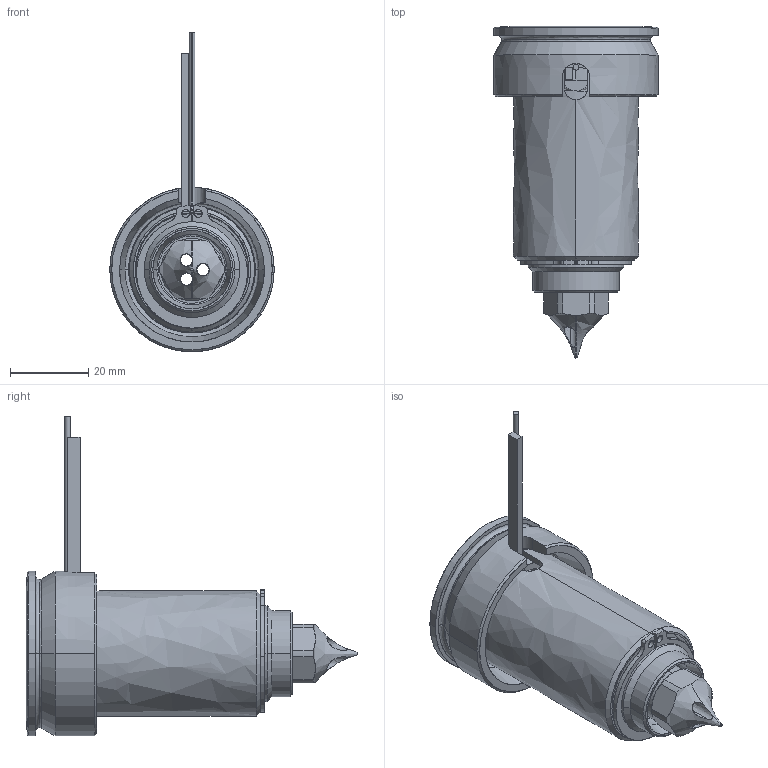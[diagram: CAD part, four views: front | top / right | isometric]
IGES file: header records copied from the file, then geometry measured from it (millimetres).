
Start section: SolidWorks IGES file using analytic representation for surfaces
Global section: file name: C:\Users\luca.EMPAD\Desktop\TEM\UGDL3612-M-A-1 [Øf=0.6 ØC=10].IGS; native system: SolidWorks 2012; preprocessor: SolidWorks 2012; author: luca; date: 120330.160445; units: millimetre
Bounding box: 42 x 84.8 x 81.65 mm (x, y, z)
Surface area: 26946.7 mm2 (no closed solid volume)
Topology: 0 solids, 0 shells, 127 faces, 2246 edges, 2246 vertices
Faces by surface type: revolution 81, bspline 46
